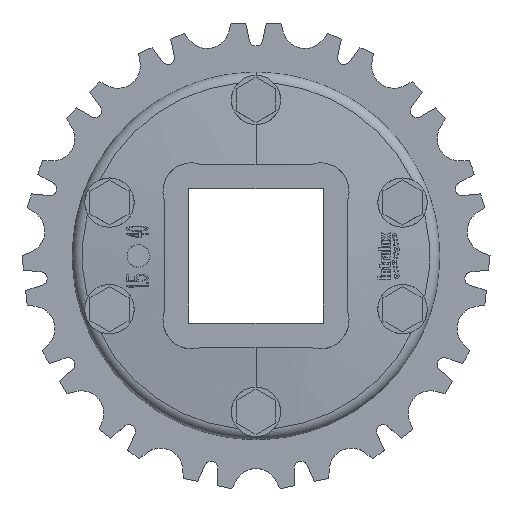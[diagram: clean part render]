
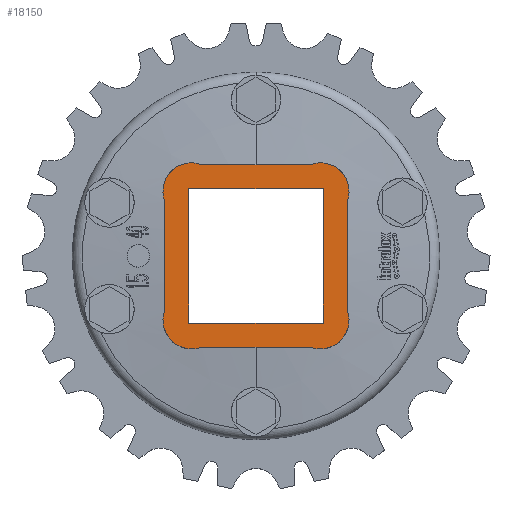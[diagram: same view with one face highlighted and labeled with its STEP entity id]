
A CAD part, top view. The second image highlights one B-rep face of the part: STEP entity #18150.
In plain terms, the highlighted planar face has unit normal (0, 0, 1) as drawn and (0, 1, 0) by its records, which use the part's own axes.
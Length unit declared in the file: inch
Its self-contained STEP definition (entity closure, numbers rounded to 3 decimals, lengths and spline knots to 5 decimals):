
#10879=DIRECTION('',(0.,0.,1.));
#10880=VECTOR('',#10879,1.21061);
#10881=CARTESIAN_POINT('',(-1.0175,0.67,-0.60531));
#10882=LINE('',#10881,#10880);
#10883=CARTESIAN_POINT('',(-0.718,0.67,-0.718));
#10884=DIRECTION('',(0.,1.,0.));
#10885=DIRECTION('',(0.352,0.,-0.936));
#10886=AXIS2_PLACEMENT_3D('',#10883,#10884,#10885);
#10888=DIRECTION('',(-1.,0.,0.));
#10889=VECTOR('',#10888,1.21061);
#10890=CARTESIAN_POINT('',(0.60531,0.67,-1.0175));
#10891=LINE('',#10890,#10889);
#10892=CARTESIAN_POINT('',(0.718,0.67,-0.718));
#10893=DIRECTION('',(0.,1.,0.));
#10894=DIRECTION('',(0.936,0.,0.352));
#10895=AXIS2_PLACEMENT_3D('',#10892,#10893,#10894);
#10897=DIRECTION('',(0.,0.,-1.));
#10898=VECTOR('',#10897,1.21061);
#10899=CARTESIAN_POINT('',(1.0175,0.67,0.60531));
#10900=LINE('',#10899,#10898);
#10901=CARTESIAN_POINT('',(0.718,0.67,0.718));
#10902=DIRECTION('',(0.,1.,0.));
#10903=DIRECTION('',(-0.352,0.,0.936));
#10904=AXIS2_PLACEMENT_3D('',#10901,#10902,#10903);
#10906=DIRECTION('',(1.,0.,0.));
#10907=VECTOR('',#10906,1.21061);
#10908=CARTESIAN_POINT('',(-0.60531,0.67,1.0175));
#10909=LINE('',#10908,#10907);
#10910=CARTESIAN_POINT('',(-0.718,0.67,0.718));
#10911=DIRECTION('',(0.,1.,0.));
#10912=DIRECTION('',(-0.936,0.,-0.352));
#10913=AXIS2_PLACEMENT_3D('',#10910,#10911,#10912);
#10915=DIRECTION('',(-1.,0.,0.));
#10916=VECTOR('',#10915,1.5);
#10917=CARTESIAN_POINT('',(0.75,0.67,-0.75));
#10918=LINE('',#10917,#10916);
#10919=DIRECTION('',(0.,0.,1.));
#10920=VECTOR('',#10919,1.5);
#10921=CARTESIAN_POINT('',(-0.75,0.67,-0.75));
#10922=LINE('',#10921,#10920);
#10923=DIRECTION('',(1.,0.,0.));
#10924=VECTOR('',#10923,1.5);
#10925=CARTESIAN_POINT('',(-0.75,0.67,0.75));
#10926=LINE('',#10925,#10924);
#10927=DIRECTION('',(0.,0.,-1.));
#10928=VECTOR('',#10927,1.5);
#10929=CARTESIAN_POINT('',(0.75,0.67,0.75));
#10930=LINE('',#10929,#10928);
#11385=CARTESIAN_POINT('',(-1.0175,0.67,-0.60531));
#11386=CARTESIAN_POINT('',(-1.0175,0.67,0.60531));
#11387=VERTEX_POINT('',#11385);
#11388=VERTEX_POINT('',#11386);
#11389=CARTESIAN_POINT('',(-0.60531,0.67,1.0175));
#11390=VERTEX_POINT('',#11389);
#11391=CARTESIAN_POINT('',(0.60531,0.67,1.0175));
#11392=VERTEX_POINT('',#11391);
#11393=CARTESIAN_POINT('',(1.0175,0.67,0.60531));
#11394=VERTEX_POINT('',#11393);
#11395=CARTESIAN_POINT('',(1.0175,0.67,-0.60531));
#11396=VERTEX_POINT('',#11395);
#11397=CARTESIAN_POINT('',(0.60531,0.67,-1.0175));
#11398=VERTEX_POINT('',#11397);
#11399=CARTESIAN_POINT('',(-0.60531,0.67,-1.0175));
#11400=VERTEX_POINT('',#11399);
#12151=CARTESIAN_POINT('',(0.75,0.67,-0.75));
#12152=CARTESIAN_POINT('',(-0.75,0.67,-0.75));
#12153=VERTEX_POINT('',#12151);
#12154=VERTEX_POINT('',#12152);
#12155=CARTESIAN_POINT('',(-0.75,0.67,0.75));
#12156=VERTEX_POINT('',#12155);
#12157=CARTESIAN_POINT('',(0.75,0.67,0.75));
#12158=VERTEX_POINT('',#12157);
#18125=CARTESIAN_POINT('',(0.,0.67,0.));
#18126=DIRECTION('',(0.,1.,0.));
#18127=DIRECTION('',(-1.,0.,0.));
#18128=AXIS2_PLACEMENT_3D('',#18125,#18126,#18127);
#18129=PLANE('',#18128);
#18130=ORIENTED_EDGE('',*,*,#18019,.F.);
#18131=ORIENTED_EDGE('',*,*,#18035,.F.);
#18132=ORIENTED_EDGE('',*,*,#18049,.F.);
#18133=ORIENTED_EDGE('',*,*,#18063,.F.);
#18134=ORIENTED_EDGE('',*,*,#18078,.F.);
#18135=ORIENTED_EDGE('',*,*,#18092,.F.);
#18136=ORIENTED_EDGE('',*,*,#18106,.F.);
#18137=ORIENTED_EDGE('',*,*,#18119,.F.);
#18138=EDGE_LOOP('',(#18130,#18131,#18132,#18133,#18134,#18135,#18136,#18137));
#18139=FACE_OUTER_BOUND('',#18138,.F.);
#18141=ORIENTED_EDGE('',*,*,#18140,.T.);
#18143=ORIENTED_EDGE('',*,*,#18142,.T.);
#18145=ORIENTED_EDGE('',*,*,#18144,.T.);
#18147=ORIENTED_EDGE('',*,*,#18146,.T.);
#18148=EDGE_LOOP('',(#18141,#18143,#18145,#18147));
#18149=FACE_BOUND('',#18148,.F.);
#18150=ADVANCED_FACE('',(#18139,#18149),#18129,.T.);
#10887=CIRCLE('',#10886,0.32);
#10896=CIRCLE('',#10895,0.32);
#10905=CIRCLE('',#10904,0.32);
#10914=CIRCLE('',#10913,0.32);
#18019=EDGE_CURVE('',#11387,#11388,#10882,.T.);
#18035=EDGE_CURVE('',#11400,#11387,#10887,.T.);
#18049=EDGE_CURVE('',#11398,#11400,#10891,.T.);
#18063=EDGE_CURVE('',#11396,#11398,#10896,.T.);
#18078=EDGE_CURVE('',#11394,#11396,#10900,.T.);
#18092=EDGE_CURVE('',#11392,#11394,#10905,.T.);
#18106=EDGE_CURVE('',#11390,#11392,#10909,.T.);
#18119=EDGE_CURVE('',#11388,#11390,#10914,.T.);
#18140=EDGE_CURVE('',#12153,#12154,#10918,.T.);
#18142=EDGE_CURVE('',#12154,#12156,#10922,.T.);
#18144=EDGE_CURVE('',#12156,#12158,#10926,.T.);
#18146=EDGE_CURVE('',#12158,#12153,#10930,.T.);
